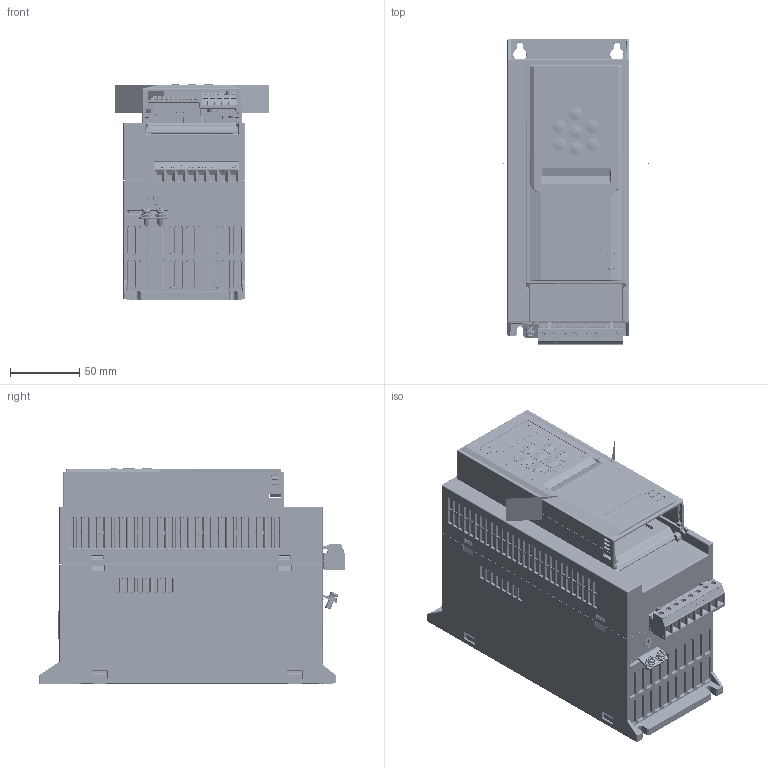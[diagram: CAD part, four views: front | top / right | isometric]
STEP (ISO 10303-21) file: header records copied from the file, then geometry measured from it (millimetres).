
FILE_DESCRIPTION((''),'2;1');
FILE_NAME('D2-DRIVE-220_REV00_ASM','2022-03-02T10:19:23',('wendong.luo'),(''),'CREO PARAMETRIC BY PTC INC, 2018100','CREO PARAMETRIC BY PTC INC, 2018100','');
FILE_SCHEMA(('CONFIG_CONTROL_DESIGN','GEOMETRIC_VALIDATION_PROPERTIES_MIM'));
Products named in the file (19): D2-MECHANICAL-PART_220; E0400006; E0400043; M0202003; D2-PU-220_ASM; M0104033; E0100084; E0400023; E0400008; E0400009; E0400001; E0400011; E0100084_ASM; M0203006; M0203025; M0203032; M0104034; CU_NEW_ASM; D2-DRIVE-220_REV00_ASM
Assembly tree (20 placements, depth 4):
  D2-DRIVE-220_REV00_ASM
    D2-PU-220_ASM
      D2-MECHANICAL-PART_220
      E0400006
      E0400043
      M0202003  x2
    CU_NEW_ASM
      M0104033
      E0100084_ASM
        E0100084
        E0400023
        E0400008
        E0400009  x2
        E0400001
        E0400011
      M0203006
      M0203025
      M0203032
      M0104034
Bounding box: 111.51 x 221.49 x 155.65 mm (x, y, z)
Volume: 1892937.1 mm3; surface area: 348639.9 mm2
Topology: 19 solids, 43 shells, 15470 faces, 41099 edges, 26467 vertices
Faces by surface type: plane 8394, cylinder 2859, bspline 1882, extrusion 1630, cone 358, torus 177, sphere 170
Entity records: 686946 total; most frequent: CARTESIAN_POINT 202552, ORIENTED_EDGE 76976, DIRECTION 59190, PRESENTATION_STYLE_ASSIGNMENT 39992, EDGE_CURVE 38496, STYLED_ITEM 37615, CURVE_STYLE 37008, VECTOR 26114
